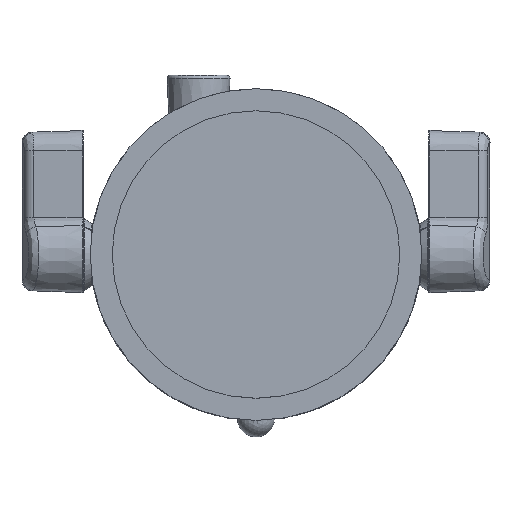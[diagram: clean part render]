
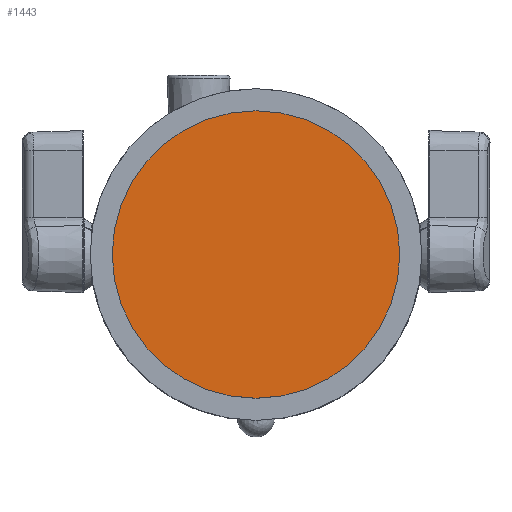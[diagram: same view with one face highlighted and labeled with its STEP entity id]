
A CAD part, top view. The second image highlights one B-rep face of the part: STEP entity #1443.
In plain terms, the highlighted planar face has unit normal (0, 0, 1).
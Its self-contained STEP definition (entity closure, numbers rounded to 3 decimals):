
#1443=ADVANCED_FACE('',(#1725),#1657,.F.);
#1657=PLANE('',#4772);
#1725=FACE_OUTER_BOUND('',#1894,.T.);
#1894=EDGE_LOOP('',(#2177));
#2177=ORIENTED_EDGE('',*,*,#3951,.F.);
#3451=VERTEX_POINT('',#6083);
#3951=EDGE_CURVE('',#3451,#3451,#4588,.T.);
#4588=CIRCLE('',#4771,20.8);
#4771=AXIS2_PLACEMENT_3D('',#6082,#5168,#5169);
#4772=AXIS2_PLACEMENT_3D('',#6084,#5170,#5171);
#5168=DIRECTION('',(0.,0.,-1.));
#5169=DIRECTION('',(-1.,0.,0.));
#5170=DIRECTION('',(0.,0.,-1.));
#5171=DIRECTION('',(-1.,0.,0.));
#6082=CARTESIAN_POINT('',(0.,0.,38.57));
#6083=CARTESIAN_POINT('',(-20.8,0.,38.57));
#6084=CARTESIAN_POINT('',(0.,0.,38.57));
